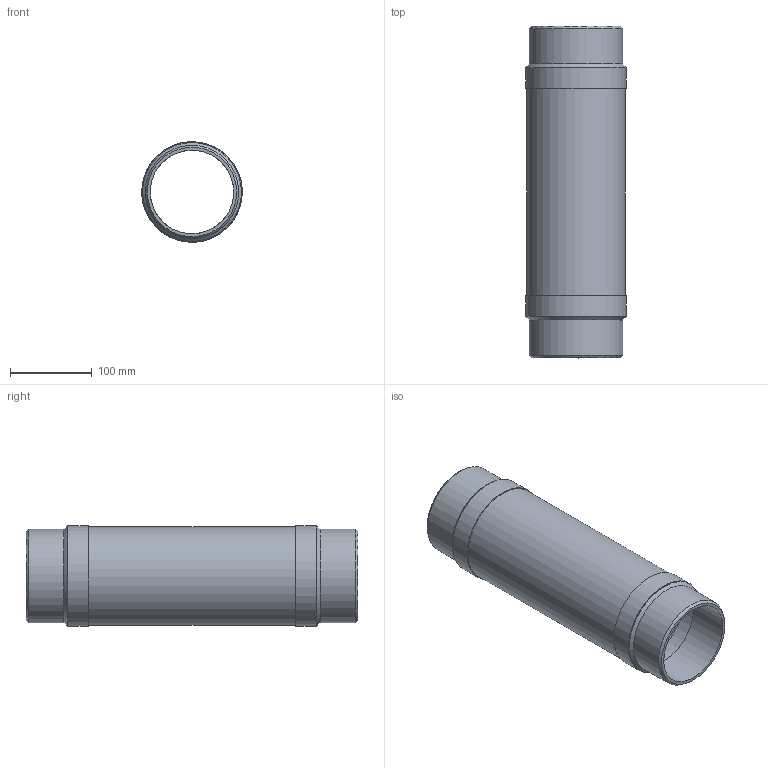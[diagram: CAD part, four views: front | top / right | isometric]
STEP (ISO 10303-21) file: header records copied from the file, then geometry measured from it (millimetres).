
FILE_DESCRIPTION(/* description */ (''),/* implementation_level */ '2;1');
FILE_NAME(/* name */ 'C:\001_Work\Designs\CSAWN\CSAWN-4x16.stp',/* time_stamp */ '2016-06-04T18:33:17-04:00',/* author */ ('rramoutar'),/* organization */ ('Mason Industries Inc.'),/* preprocessor_version */ 'ST-DEVELOPER v15.6',/* originating_system */ 'Autodesk Inventor 2015',/* authorisation */ '');
FILE_SCHEMA (('CONFIG_CONTROL_DESIGN'));
Length unit declared in the file: inch
Products named in the file (1): CSAWN-4x16
Bounding box: 123 x 406.4 x 123 mm (x, y, z)
Volume: 282400.5 mm3; surface area: 352304.7 mm2
Topology: 5 solids, 5 shells, 24 faces, 40 edges, 26 vertices
Faces by surface type: cylinder 10, plane 10, cone 4
Full cylindrical faces by diameter (mm): 102.26 x2, 114.3 x2, 119.888 x1, 120.701 x3, 123.082 x2
Entity records: 564 total; most frequent: DIRECTION 98, CARTESIAN_POINT 73, AXIS2_PLACEMENT_3D 49, EDGE_LOOP 48, ORIENTED_EDGE 48, STYLED_ITEM 29, FACE_BOUND 24, FACE_OUTER_BOUND 24
